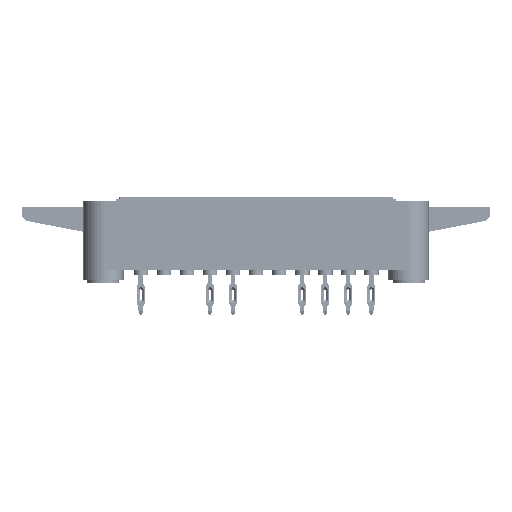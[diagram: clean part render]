
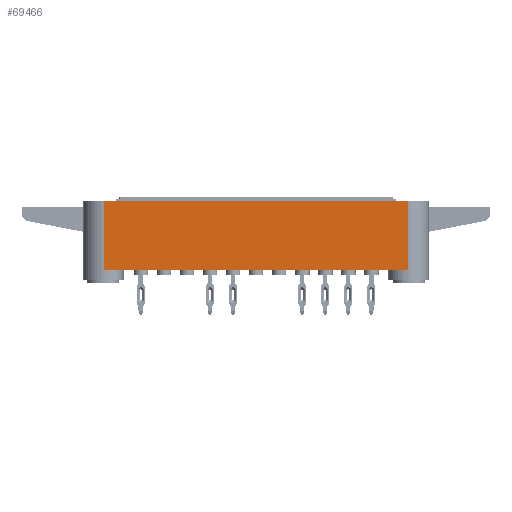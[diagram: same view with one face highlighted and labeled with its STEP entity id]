
A CAD part, front view. The second image highlights one B-rep face of the part: STEP entity #69466.
In plain terms, the highlighted planar face has unit normal (0, -1, 0) as drawn and (0, 0, -1) by its records, which use the part's own axes.
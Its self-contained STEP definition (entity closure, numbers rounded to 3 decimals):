
#1978 = ORIENTED_EDGE ( 'NONE', *, *, #26752, .T. ) ;
#7076 = CARTESIAN_POINT ( 'NONE',  ( 0., -21.05, -17. ) ) ;
#9789 = VECTOR ( 'NONE', #63313, 1000. ) ;
#9806 = DIRECTION ( 'NONE',  ( 0., 0., -1. ) ) ;
#9906 = VECTOR ( 'NONE', #69098, 1000. ) ;
#11448 = DIRECTION ( 'NONE',  ( 1., 0., 0. ) ) ;
#11938 = CARTESIAN_POINT ( 'NONE',  ( 9.6, -21.05, -17. ) ) ;
#15206 = ORIENTED_EDGE ( 'NONE', *, *, #22011, .F. ) ;
#17560 = LINE ( 'NONE', #44054, #33392 ) ;
#18874 = VERTEX_POINT ( 'NONE', #61642 ) ;
#21889 = DIRECTION ( 'NONE',  ( -1., 0., 0. ) ) ;
#22011 = EDGE_CURVE ( 'NONE', #40825, #18874, #64318, .T. ) ;
#22959 = ORIENTED_EDGE ( 'NONE', *, *, #40444, .T. ) ;
#23963 = LINE ( 'NONE', #7076, #9789 ) ;
#25910 = CARTESIAN_POINT ( 'NONE',  ( 0., -21.05, -17. ) ) ;
#26752 = EDGE_CURVE ( 'NONE', #33202, #18874, #66532, .T. ) ;
#29972 = VECTOR ( 'NONE', #11448, 1000. ) ;
#31851 = PLANE ( 'NONE',  #63413 ) ;
#33202 = VERTEX_POINT ( 'NONE', #43025 ) ;
#33392 = VECTOR ( 'NONE', #56885, 1000. ) ;
#36399 = CARTESIAN_POINT ( 'NONE',  ( 9.6, 0., -17. ) ) ;
#40444 = EDGE_CURVE ( 'NONE', #54084, #33202, #17560, .T. ) ;
#40825 = VERTEX_POINT ( 'NONE', #11938 ) ;
#43025 = CARTESIAN_POINT ( 'NONE',  ( 0., 21.05, -17. ) ) ;
#43296 = ORIENTED_EDGE ( 'NONE', *, *, #72519, .T. ) ;
#44002 = FACE_OUTER_BOUND ( 'NONE', #46086, .T. ) ;
#44054 = CARTESIAN_POINT ( 'NONE',  ( 0., 0., -17. ) ) ;
#46086 = EDGE_LOOP ( 'NONE', ( #1978, #15206, #43296, #22959 ) ) ;
#54084 = VERTEX_POINT ( 'NONE', #25910 ) ;
#56885 = DIRECTION ( 'NONE',  ( 0., 1., 0. ) ) ;
#60204 = CARTESIAN_POINT ( 'NONE',  ( 0., -21.25, -17. ) ) ;
#61642 = CARTESIAN_POINT ( 'NONE',  ( 9.6, 21.05, -17. ) ) ;
#63313 = DIRECTION ( 'NONE',  ( -1., 0., 0. ) ) ;
#63413 = AXIS2_PLACEMENT_3D ( 'NONE', #60204, #9806, #21889 ) ;
#64318 = LINE ( 'NONE', #36399, #9906 ) ;
#66177 = CARTESIAN_POINT ( 'NONE',  ( 0., 21.05, -17. ) ) ;
#66532 = LINE ( 'NONE', #66177, #29972 ) ;
#69098 = DIRECTION ( 'NONE',  ( 0., 1., 0. ) ) ;
#69466 = ADVANCED_FACE ( 'NONE', ( #44002 ), #31851, .T. ) ;
#72519 = EDGE_CURVE ( 'NONE', #40825, #54084, #23963, .T. ) ;
